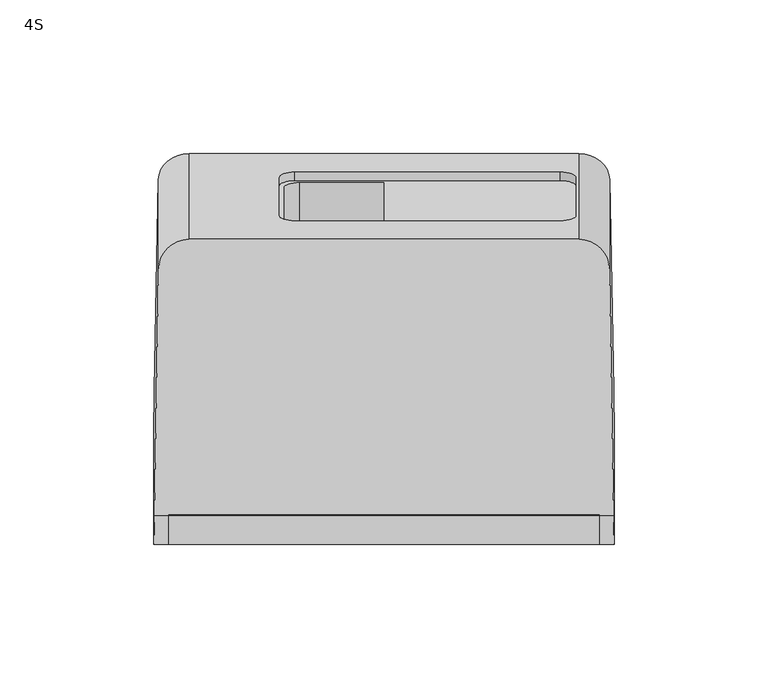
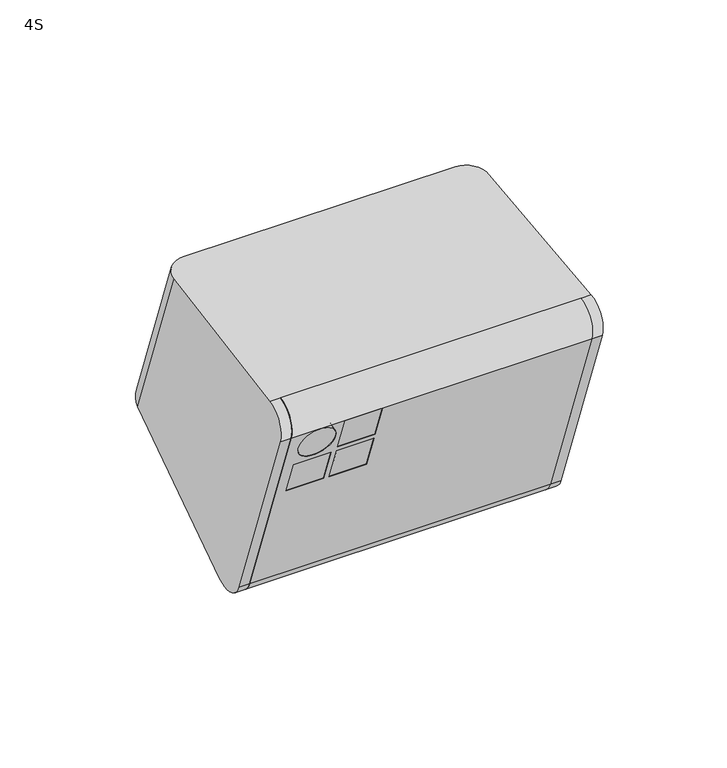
"""IFC4 building model written with IfcOpenShell, lengths in millimetres: proxy geometry, d&b xS-Series 4S Point Source : 4S."""

from ifc_helpers import new_model, si_unit, point, frame, frame_2d, origin, place, context, project, spatial, polyline, circle_curve, ellipse_curve, trimmed, segment, composite_curve, outline, extrude, source, transform, mapped, element, save
from ifc_brep_helpers import plane_surface, cylinder_surface, revolved_surface, advanced_brep


def proxy_4s_93626263(model_context):
    return source(origin(), model_context, "Body", "SolidModel", [
        extrude(outline(composite_curve([segment(polyline([(-54.0660979, 38.2800313), (-16.811104, -64.0772231)]), True, "CONTINUOUS"), segment(trimmed(circle_curve(frame_2d((-20.8574026, -59.6469333)), 6.0), [point((-16.811104, -64.0772231))], [point((-26.4955583, -61.6990542))], False, "CARTESIAN"), True, "CONTINUOUS"), segment(polyline([(-26.4955583, -61.6990542), (-59.9561628, 30.233201)]), True, "CONTINUOUS"), segment(trimmed(circle_curve(frame_2d((-54.3180071, 32.2853219)), 6.0), [point((-59.9561628, 30.233201))], [point((-54.0660979, 38.2800313))], False, "CARTESIAN"), True, "CONTINUOUS")], self_intersect=False)), frame((-70.0, 0.0, 0.0), z_axis=(1.0, 0.0, 0.0), x_axis=(0.0, 1.0, 0.0)), (0.0, 0.0, 1.0), 140.0),
        advanced_brep(
        [(-27.5, -58.5875693, 11.8539993), (-27.5, -53.8891062, 13.5641), (-45.0, -53.8891062, 13.5641), (-45.0, -58.5875693, 11.8539993), (-45.0, -59.8744587, 30.0087209), (-45.0, -64.5729218, 28.2986202), (-27.5, -59.8744587, 30.0087209), (-27.5, -64.5729218, 28.2986202), (-27.5, -51.7471664, -6.9398531), (-27.5, -47.0487033, -5.2297524), (-45.0, -47.0487033, -5.2297524), (-45.0, -51.7471664, -6.9398531), (-45.0, -53.0340558, 11.2148685), (-45.0, -57.7325189, 9.5047677), (-27.5, -53.0340558, 11.2148685), (-27.5, -57.7325189, 9.5047677), (-47.5, -51.7471664, -6.9398531), (-47.5, -47.0487033, -5.2297524), (-65.0, -47.0487033, -5.2297524), (-65.0, -51.7471664, -6.9398531), (-65.0, -53.0340558, 11.2148685), (-65.0, -57.7325189, 9.5047677), (-47.5, -53.0340558, 11.2148685), (-47.5, -57.7325189, 9.5047677), (-65.0, -61.5802456, 20.0763097), (-65.0, -56.8817824, 21.7864104), (-47.5, -56.8817824, 21.7864104), (-47.5, -61.5802456, 20.0763097), (70.0, -31.1940214, -63.4091549), (70.0, -15.0282907, -68.9754624), (70.0, -16.811104, -64.0772231), (70.0, -26.4955583, -61.6990542), (70.0, -59.9561628, 30.233201), (70.0, -54.0660979, 38.2800313), (70.0, -55.8489112, 43.1782706), (70.0, -64.6546259, 28.5231003), (-70.0, -31.1940214, -63.4091549), (-70.0, -64.6546259, 28.5231003), (-70.0, -55.8489112, 43.1782706), (-70.0, -54.0660979, 38.2800313), (-70.0, -59.9561628, 30.233201), (-70.0, -26.4955583, -61.6990542), (-70.0, -16.811104, -64.0772231), (-70.0, -15.0282907, -68.9754624)],
        [
            (0, 1),
            (1, 2),
            (2, 3),
            (3, 0),
            (2, 4),
            (4, 5),
            (5, 3),
            (4, 6),
            (6, 7),
            (7, 5),
            (0, 7),
            (6, 1),
            (8, 9),
            (9, 10),
            (10, 11),
            (11, 8),
            (10, 12),
            (12, 13),
            (13, 11),
            (12, 14),
            (14, 15),
            (15, 13),
            (8, 15),
            (14, 9),
            (16, 17),
            (17, 18),
            (18, 19),
            (19, 16),
            (18, 20),
            (20, 21),
            (21, 19),
            (20, 22),
            (22, 23),
            (23, 21),
            (16, 23),
            (22, 17),
            (24, 25),
            (25, 26, circle_curve(frame((-56.25, -56.8817824, 21.7864104), z_axis=(0.0, 0.9396926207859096, 0.3420201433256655), x_axis=(1.0, 0.0, 0.0)), 8.75)),
            (26, 27),
            (27, 24, circle_curve(frame((-56.25, -61.5802456, 20.0763097), z_axis=(0.0, -0.9396926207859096, -0.3420201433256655), x_axis=(1.0, 0.0, 0.0)), 8.75)),
            (24, 27, circle_curve(frame((-56.25, -61.5802456, 20.0763097), z_axis=(0.0, -0.9396926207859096, -0.3420201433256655), x_axis=(1.0, 0.0, 0.0)), 8.75)),
            (26, 25, circle_curve(frame((-56.25, -56.8817824, 21.7864104), z_axis=(0.0, 0.9396926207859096, 0.3420201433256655), x_axis=(1.0, 0.0, 0.0)), 8.75)),
            (28, 29, circle_curve(frame((70.0, -20.8574026, -59.6469333), z_axis=(1.0, 0.0, 0.0), x_axis=(0.0, -0.9396926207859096, -0.3420201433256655)), 11.0)),
            (29, 30),
            (30, 31, circle_curve(frame((70.0, -20.8574026, -59.6469333), z_axis=(-1.0, 0.0, 0.0), x_axis=(0.0, -0.9396926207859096, -0.3420201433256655)), 6.0)),
            (31, 32),
            (32, 33, circle_curve(frame((70.0, -54.3180071, 32.2853219), z_axis=(-1.0, 0.0, 0.0), x_axis=(0.0, -0.9396926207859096, -0.3420201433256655)), 6.0)),
            (33, 34),
            (34, 35, circle_curve(frame((70.0, -54.3180071, 32.2853219), z_axis=(1.0, 0.0, 0.0), x_axis=(0.0, -0.9396926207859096, -0.3420201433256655)), 11.0)),
            (35, 28),
            (36, 37),
            (37, 38, circle_curve(frame((-70.0, -54.3180071, 32.2853219), z_axis=(-1.0, 0.0, 0.0), x_axis=(0.0, -0.9396926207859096, -0.3420201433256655)), 11.0)),
            (38, 39),
            (39, 40, circle_curve(frame((-70.0, -54.3180071, 32.2853219), z_axis=(1.0, 0.0, 0.0), x_axis=(0.0, -0.9396926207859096, -0.3420201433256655)), 6.0)),
            (40, 41),
            (41, 42, circle_curve(frame((-70.0, -20.8574026, -59.6469333), z_axis=(1.0, 0.0, 0.0), x_axis=(0.0, -0.9396926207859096, -0.3420201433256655)), 6.0)),
            (42, 43),
            (43, 36, circle_curve(frame((-70.0, -20.8574026, -59.6469333), z_axis=(-1.0, 0.0, 0.0), x_axis=(0.0, -0.9396926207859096, -0.3420201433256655)), 11.0)),
            (28, 36),
            (43, 29),
            (42, 30),
            (41, 31),
            (40, 32),
            (39, 33),
            (38, 34),
            (37, 35),
        ],
        [
            plane_surface(frame((-45.0, -58.5875693, 11.8539993), z_axis=(0.0, -0.3420201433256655, 0.9396926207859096), x_axis=(0.0, 0.9396926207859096, 0.3420201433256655))),
            plane_surface(frame((-45.0, -64.5729218, 28.2986202), z_axis=(1.0000000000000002, 0.0, 0.0), x_axis=(0.0, 0.9396926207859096, 0.3420201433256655))),
            plane_surface(frame((-27.5, -64.5729218, 28.2986202), z_axis=(0.0, 0.3420201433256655, -0.9396926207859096), x_axis=(0.0, 0.9396926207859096, 0.3420201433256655))),
            plane_surface(frame((-27.5, -58.5875693, 11.8539993), z_axis=(-1.0000000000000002, 0.0, 0.0), x_axis=(0.0, 0.9396926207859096, 0.3420201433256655))),
            plane_surface(frame((-45.0, -51.7471664, -6.9398531), z_axis=(0.0, -0.3420201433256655, 0.9396926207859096), x_axis=(0.0, 0.9396926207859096, 0.3420201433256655))),
            plane_surface(frame((-45.0, -57.7325189, 9.5047677), z_axis=(1.0000000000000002, 0.0, 0.0), x_axis=(0.0, 0.9396926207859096, 0.3420201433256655))),
            plane_surface(frame((-27.5, -57.7325189, 9.5047677), z_axis=(0.0, 0.3420201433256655, -0.9396926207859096), x_axis=(0.0, 0.9396926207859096, 0.3420201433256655))),
            plane_surface(frame((-27.5, -51.7471664, -6.9398531), z_axis=(-1.0000000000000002, 0.0, 0.0), x_axis=(0.0, 0.9396926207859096, 0.3420201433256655))),
            plane_surface(frame((-65.0, -51.7471664, -6.9398531), z_axis=(0.0, -0.3420201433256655, 0.9396926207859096), x_axis=(0.0, 0.9396926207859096, 0.3420201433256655))),
            plane_surface(frame((-65.0, -57.7325189, 9.5047677), z_axis=(1.0000000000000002, 0.0, 0.0), x_axis=(0.0, 0.9396926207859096, 0.3420201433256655))),
            plane_surface(frame((-47.5, -57.7325189, 9.5047677), z_axis=(0.0, 0.3420201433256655, -0.9396926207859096), x_axis=(0.0, 0.9396926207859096, 0.3420201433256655))),
            plane_surface(frame((-47.5, -51.7471664, -6.9398531), z_axis=(-1.0000000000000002, 0.0, 0.0), x_axis=(0.0, 0.9396926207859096, 0.3420201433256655))),
            revolved_surface(polyline([(-47.5, -61.58024561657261, 20.076309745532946), (-47.5, -56.88178243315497, 21.78641049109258)]), (-56.25, -147.3250437, -11.1322445), (0.0, -0.9396926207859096, -0.3420201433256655)),
            plane_surface(frame((70.0, -31.1940214, -63.4091549), z_axis=(1.0000000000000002, 0.0, 0.0), x_axis=(0.0, 0.3420201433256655, -0.9396926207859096))),
            plane_surface(frame((-70.0, -31.1940214, -63.4091549), z_axis=(-1.0000000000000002, 0.0, 0.0), x_axis=(0.0, -0.3420201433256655, 0.9396926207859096))),
            cylinder_surface(frame((-70.0, -20.8574026, -59.6469333), z_axis=(1.0, 0.0, 0.0), x_axis=(0.0, -0.9396926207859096, -0.3420201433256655)), 11.0),
            plane_surface(frame((70.0, -15.0282907, -68.9754624), z_axis=(0.0, 0.939692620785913, 0.34202014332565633), x_axis=(-1.0, 0.0, 0.0))),
            revolved_surface(polyline([(-70.0, -26.495558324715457, -61.699054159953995), (70.0, -26.495558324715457, -61.699054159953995)]), (-70.0, -20.8574026, -59.6469333), (-1.0, 0.0, 0.0)),
            plane_surface(frame((70.0, -26.4955583, -61.6990542), z_axis=(0.0, 0.9396926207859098, 0.3420201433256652), x_axis=(-1.0, 0.0, 0.0))),
            revolved_surface(polyline([(-70.0, -59.95616282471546, 30.233201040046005), (70.0, -59.95616282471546, 30.233201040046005)]), (-70.0, -54.3180071, 32.2853219), (-1.0, 0.0, 0.0)),
            plane_surface(frame((70.0, -54.0660979, 38.2800313), z_axis=(0.0, 0.9396926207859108, 0.34202014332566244), x_axis=(-1.0, 0.0, 0.0))),
            cylinder_surface(frame((-70.0, -54.3180071, 32.2853219), z_axis=(1.0, 0.0, 0.0), x_axis=(0.0, -0.9396926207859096, -0.3420201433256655)), 11.0),
            plane_surface(frame((70.0, -64.6546259, 28.5231003), z_axis=(0.0, -0.9396926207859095, -0.34202014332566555), x_axis=(-1.0, 0.0, 0.0))),
        ],
        [
            (0, [[1, 2, 3, 4]]),
            (1, [[-3, 5, 6, 7]]),
            (2, [[-6, 8, 9, 10]]),
            (3, [[-1, 11, -9, 12]]),
            (4, [[13, 14, 15, 16]]),
            (5, [[-15, 17, 18, 19]]),
            (6, [[-18, 20, 21, 22]]),
            (7, [[-13, 23, -21, 24]]),
            (8, [[25, 26, 27, 28]]),
            (9, [[-27, 29, 30, 31]]),
            (10, [[-30, 32, 33, 34]]),
            (11, [[-25, 35, -33, 36]]),
            (12, [[37, 38, 39, 40]]),
            (12, [[-37, 41, -39, 42]]),
            (13, [[43, 44, 45, 46, 47, 48, 49, 50]]),
            (14, [[51, 52, 53, 54, 55, 56, 57, 58]]),
            (15, [[-43, 59, -58, 60]]),
            (16, [[-44, -60, -57, 61]]),
            (17, [[-45, -61, -56, 62]]),
            (18, [[-46, -62, -55, 63], [-2, -12, -8, -5], [-14, -24, -20, -17], [-26, -36, -32, -29], [-38, -42]]),
            (19, [[-47, -63, -54, 64]]),
            (20, [[-48, -64, -53, 65]]),
            (21, [[-49, -65, -52, 66]]),
            (22, [[-50, -66, -51, -59], [-4, -7, -10, -11], [-16, -19, -22, -23], [-28, -31, -34, -35], [-40, -41]]),
        ],
    ),
        extrude(outline(polyline([(0.0, -17.5), (0.0, 0.0), (5.0, 0.0), (5.0, -17.5), (0.0, -17.5)])), frame((-45.0, -58.5824428, 11.8399145), z_axis=(0.0, -0.3420201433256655, 0.9396926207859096), x_axis=(0.0, 0.9396926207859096, 0.3420201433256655)), (0.0, 0.0, 1.0), 17.5),
        extrude(outline(polyline([(0.0, -17.5), (0.0, 0.0), (5.0, 0.0), (5.0, -17.5), (0.0, -17.5)])), frame((-45.0, -51.74204, -6.9539379), z_axis=(0.0, -0.3420201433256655, 0.9396926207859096), x_axis=(0.0, 0.9396926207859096, 0.3420201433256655)), (0.0, 0.0, 1.0), 17.5),
        extrude(outline(polyline([(0.0, -17.5), (0.0, 0.0), (5.0, 0.0), (5.0, -17.5), (0.0, -17.5)])), frame((-65.0, -51.74204, -6.9539379), z_axis=(0.0, -0.3420201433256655, 0.9396926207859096), x_axis=(0.0, 0.9396926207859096, 0.3420201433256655)), (0.0, 0.0, 1.0), 17.5),
        extrude(outline(composite_curve([segment(trimmed(circle_curve(frame_2d((-8.7500001, -28.75)), 8.75), [point((-8.7500001, -37.5))], [point((-8.7500001, -20.0))], False, "CARTESIAN"), True, "CONTINUOUS"), segment(trimmed(circle_curve(frame_2d((-8.7500001, -28.75)), 8.75), [point((-8.7500001, -20.0))], [point((-8.7500001, -37.5))], False, "CARTESIAN"), True, "CONTINUOUS")], self_intersect=False)), frame((-27.5, -64.5677954, 28.2845354), z_axis=(0.0, 0.9396926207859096, 0.3420201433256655), x_axis=(0.0, -0.3420201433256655, 0.9396926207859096)), (0.0, 0.0, 1.0), 5.0),
        advanced_brep(
        [(57.4298657, 37.2178876, 38.0873055), (62.4298657, 38.9279883, 33.3888424), (62.4298657, 51.2825033, -0.5549087), (57.4298657, 52.992604, -5.2533718), (-29.0610927, 52.992604, -5.2533718), (-34.0610927, 51.2825033, -0.5549087), (-34.0610927, 38.9279883, 33.3888424), (-29.0610927, 37.2178876, 38.0873055), (-32.4913486, 39.4648724, 31.9137655), (-32.4913486, 50.7456192, 0.9201683), (-27.4913486, 52.4557199, -3.7782948), (-0.0804502, 52.4557199, -3.7782948), (-0.0804502, 37.7547717, 36.6122286), (-27.4913486, 37.7547717, 36.6122286), (57.4298657, 40.0369654, 39.113366), (62.4298657, 41.7470661, 34.4149029), (62.4298657, 54.1015812, 0.4711518), (57.4298657, 55.8116819, -4.2273114), (-29.0610927, 55.8116819, -4.2273114), (-34.0610927, 54.1015812, 0.4711518), (-34.0610927, 41.7470661, 34.4149029), (-29.0610927, 40.0369654, 39.113366), (-32.4913486, 35.7105373, -4.552154), (-32.4913486, 24.4297904, 26.4414432), (-27.4913486, 22.7196897, 31.1399063), (-0.0804502, 22.7196897, 31.1399063), (-0.0804502, 37.420638, -9.2506171), (-27.4913486, 37.420638, -9.2506171), (70.0, -31.1940214, -63.4091549), (70.0, -64.6546259, 28.5231003), (70.0, -55.8489112, 43.1782706), (70.0, -15.0282907, -68.9754624), (-70.0, -31.1940214, -63.4091549), (-70.0, -15.0282907, -68.9754624), (-70.0, -55.8489112, 43.1782706), (-70.0, -64.6546259, 28.5231003), (-74.7177462, -15.0282907, -68.9754624), (-73.3763698, 53.3627907, -26.2399717), (-63.3778153, 61.8853228, -20.9145026), (63.3841074, 61.8853228, -20.9145026), (73.3826619, 53.3627907, -26.2399717), (74.7240383, -15.0282907, -68.9754624), (-73.3763698, 24.0115406, 54.4019252), (-74.7177462, -55.8489112, 43.1782706), (74.7240383, -55.8489112, 43.1782706), (73.3826619, 24.0115406, 54.4019252), (63.3841074, 33.9633245, 55.8005572), (-63.3778153, 33.9633245, 55.8005572), (74.9499793, -31.1940214, -63.4091549), (74.9499793, -64.6546259, 28.5231003), (-74.9436872, -31.1940214, -63.4091549), (-74.9436872, -64.6546259, 28.5231003)],
        [
            (0, 1, circle_curve(frame((57.4298657, 38.9279883, 33.3888424), z_axis=(0.0, 0.9396926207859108, 0.34202014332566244), x_axis=(0.0, -0.34202014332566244, 0.9396926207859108)), 5.0)),
            (1, 2),
            (2, 3, circle_curve(frame((57.4298657, 51.2825033, -0.5549087), z_axis=(0.0, 0.9396926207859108, 0.34202014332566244), x_axis=(0.0, -0.34202014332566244, 0.9396926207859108)), 5.0)),
            (3, 4),
            (4, 5, circle_curve(frame((-29.0610927, 51.2825033, -0.5549087), z_axis=(0.0, 0.9396926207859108, 0.34202014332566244), x_axis=(0.0, -0.34202014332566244, 0.9396926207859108)), 5.0)),
            (5, 6),
            (6, 7, circle_curve(frame((-29.0610927, 38.9279883, 33.3888424), z_axis=(0.0, 0.9396926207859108, 0.34202014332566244), x_axis=(0.0, -0.34202014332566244, 0.9396926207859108)), 5.0)),
            (7, 0),
            (8, 9),
            (9, 10, circle_curve(frame((-27.4913486, 50.7456192, 0.9201683), z_axis=(0.0, -0.9396926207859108, -0.34202014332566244), x_axis=(0.0, -0.34202014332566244, 0.9396926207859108)), 5.0)),
            (10, 11),
            (11, 12),
            (12, 13),
            (13, 8, circle_curve(frame((-27.4913486, 39.4648724, 31.9137655), z_axis=(0.0, -0.9396926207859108, -0.34202014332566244), x_axis=(0.0, -0.34202014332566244, 0.9396926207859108)), 5.0)),
            (0, 14),
            (14, 15, circle_curve(frame((57.4298657, 41.7470661, 34.4149029), z_axis=(0.0, 0.9396926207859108, 0.34202014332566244), x_axis=(0.0, -0.34202014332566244, 0.9396926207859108)), 5.0)),
            (15, 1),
            (15, 16),
            (16, 2),
            (16, 17, circle_curve(frame((57.4298657, 54.1015812, 0.4711518), z_axis=(0.0, 0.9396926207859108, 0.34202014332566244), x_axis=(0.0, -0.34202014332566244, 0.9396926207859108)), 5.0)),
            (17, 3),
            (17, 18),
            (18, 4),
            (18, 19, circle_curve(frame((-29.0610927, 54.1015812, 0.4711518), z_axis=(0.0, 0.9396926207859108, 0.34202014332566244), x_axis=(0.0, -0.34202014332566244, 0.9396926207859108)), 5.0)),
            (19, 5),
            (19, 20),
            (20, 6),
            (20, 21, circle_curve(frame((-29.0610927, 41.7470661, 34.4149029), z_axis=(0.0, 0.9396926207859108, 0.34202014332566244), x_axis=(0.0, -0.34202014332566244, 0.9396926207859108)), 5.0)),
            (21, 7),
            (21, 14),
            (22, 23),
            (23, 24, circle_curve(frame((-27.4913486, 24.4297904, 26.4414432), z_axis=(0.0, 0.9396926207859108, 0.34202014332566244), x_axis=(0.0, -0.34202014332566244, 0.9396926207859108)), 5.0)),
            (24, 25),
            (25, 26),
            (26, 27),
            (27, 22, circle_curve(frame((-27.4913486, 35.7105373, -4.552154), z_axis=(0.0, 0.9396926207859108, 0.34202014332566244), x_axis=(0.0, -0.34202014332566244, 0.9396926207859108)), 5.0)),
            (28, 29),
            (29, 30, circle_curve(frame((70.0, -54.3180071, 32.2853219), z_axis=(-1.0, 0.0, 0.0), x_axis=(0.0, -0.9396926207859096, -0.3420201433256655)), 11.0)),
            (30, 31),
            (31, 28, circle_curve(frame((70.0, -20.8574026, -59.6469333), z_axis=(-1.0, 0.0, 0.0), x_axis=(0.0, -0.9396926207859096, -0.3420201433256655)), 11.0)),
            (32, 33, circle_curve(frame((-70.0, -20.8574026, -59.6469333), z_axis=(1.0, 0.0, 0.0), x_axis=(0.0, -0.9396926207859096, -0.3420201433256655)), 11.0)),
            (33, 34),
            (34, 35, circle_curve(frame((-70.0, -54.3180071, 32.2853219), z_axis=(1.0, 0.0, 0.0), x_axis=(0.0, -0.9396926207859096, -0.3420201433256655)), 11.0)),
            (35, 32),
            (22, 9),
            (8, 23),
            (13, 24),
            (12, 25),
            (11, 26),
            (10, 27),
            (36, 37),
            (37, 38, ellipse_curve(frame((-63.3778153, 53.2153828, -26.3320823), z_axis=(0.0, 0.5299192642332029, -0.8480480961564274), x_axis=(0.0, 0.8480480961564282, 0.5299192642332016)), 10.2234059, 10.0)),
            (38, 39),
            (39, 40, ellipse_curve(frame((63.3841074, 53.2153828, -26.3320823), z_axis=(0.0, 0.5299192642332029, -0.8480480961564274), x_axis=(0.0, 0.8480480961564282, 0.5299192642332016)), 10.2234059, 10.0)),
            (40, 41),
            (41, 31),
            (31, 33),
            (33, 36),
            (30, 34),
            (42, 43),
            (43, 34),
            (30, 44),
            (44, 45),
            (45, 46, ellipse_curve(frame((63.3841074, 23.8394121, 54.3777341), z_axis=(0.0, -0.13917310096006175, 0.9902680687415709), x_axis=(0.0, -0.9902680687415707, -0.13917310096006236)), 10.2234059, 10.0)),
            (46, 47),
            (47, 42, ellipse_curve(frame((-63.3778153, 23.8394121, 54.3777341), z_axis=(0.0, -0.13917310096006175, 0.9902680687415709), x_axis=(0.0, -0.9902680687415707, -0.13917310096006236)), 10.2234059, 10.0)),
            (38, 47),
            (46, 39),
            (41, 48, ellipse_curve(frame((74.7629284, -20.8574026, -59.6469333), z_axis=(-0.9998554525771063, -0.01597681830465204, -0.005815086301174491), x_axis=(0.01700217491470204, -0.9395567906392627, -0.34197070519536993)), 11.0015903, 11.0)),
            (48, 28),
            (29, 49),
            (49, 44, ellipse_curve(frame((74.7629284, -54.3180071, 32.2853219), z_axis=(-0.9998554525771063, -0.01597681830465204, -0.005815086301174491), x_axis=(0.01700217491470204, -0.9395567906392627, -0.34197070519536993)), 11.0015903, 11.0)),
            (48, 49),
            (32, 50),
            (50, 36, ellipse_curve(frame((-74.7566362, -20.8574026, -59.6469333), z_axis=(0.9998554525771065, -0.01597681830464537, -0.005815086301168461), x_axis=(0.01700217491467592, 0.939556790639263, 0.3419707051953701)), 11.0015903, 11.0)),
            (43, 51, ellipse_curve(frame((-74.7566362, -54.3180071, 32.2853219), z_axis=(0.9998554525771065, -0.01597681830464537, -0.005815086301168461), x_axis=(0.01700217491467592, 0.939556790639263, 0.3419707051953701)), 11.0015903, 11.0)),
            (51, 35),
            (51, 50),
            (40, 45),
            (42, 37),
        ],
        [
            plane_surface(frame((57.4298657, 37.2178876, 38.0873055), z_axis=(0.0, 0.9396926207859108, 0.34202014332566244), x_axis=(-1.0, 0.0, 0.0))),
            revolved_surface(polyline([(57.4298657, 40.03696542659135, 39.11336592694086), (57.4298657, 37.21788758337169, 38.08730550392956)]), (57.4298657, 38.9279883, 33.3888424), (0.0, 0.9396926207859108, 0.34202014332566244)),
            plane_surface(frame((62.4298657, 41.7470661, 34.4149029), z_axis=(-1.0000000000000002, 0.0, 0.0), x_axis=(0.0, -0.9396926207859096, -0.3420201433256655))),
            revolved_surface(polyline([(57.4298657, 52.39148050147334, 5.169614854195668), (57.4298657, 49.57240256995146, 4.143554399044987)]), (57.4298657, 51.2825033, -0.5549087), (0.0, 0.9396926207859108, 0.34202014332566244)),
            plane_surface(frame((57.4298657, 55.8116819, -4.2273114), z_axis=(0.0, -0.3420201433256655, 0.9396926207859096), x_axis=(0.0, -0.9396926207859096, -0.3420201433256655))),
            revolved_surface(polyline([(-29.0610927, 52.39148050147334, 5.169614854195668), (-29.0610927, 49.57240256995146, 4.143554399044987)]), (-29.0610927, 51.2825033, -0.5549087), (0.0, 0.9396926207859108, 0.34202014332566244)),
            plane_surface(frame((-34.0610927, 54.1015812, 0.4711518), z_axis=(1.0000000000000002, 0.0, 0.0), x_axis=(0.0, -0.9396926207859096, -0.3420201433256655))),
            revolved_surface(polyline([(-29.0610927, 40.03696542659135, 39.11336592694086), (-29.0610927, 37.21788758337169, 38.08730550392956)]), (-29.0610927, 38.9279883, 33.3888424), (0.0, 0.9396926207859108, 0.34202014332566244)),
            plane_surface(frame((-29.0610927, 40.0369654, 39.113366), z_axis=(0.0, 0.3420201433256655, -0.9396926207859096), x_axis=(0.0, -0.9396926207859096, -0.3420201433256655))),
            plane_surface(frame((-32.4913486, 26.6499624, 20.3415708), z_axis=(0.0, 0.9396926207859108, 0.34202014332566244), x_axis=(0.0, 0.34202014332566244, -0.9396926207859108))),
            plane_surface(frame((70.0, -31.1940214, -63.4091549), z_axis=(-1.0000000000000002, 0.0, 0.0), x_axis=(0.0, -0.3420201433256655, 0.9396926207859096))),
            plane_surface(frame((-70.0, -31.1940214, -63.4091549), z_axis=(1.0000000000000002, 0.0, 0.0), x_axis=(0.0, 0.3420201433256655, -0.9396926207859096))),
            plane_surface(frame((-32.4913486, 53.5646971, 1.9462287), z_axis=(1.0000000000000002, 0.0, 0.0), x_axis=(0.0, -0.9396926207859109, -0.3420201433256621))),
            revolved_surface(polyline([(-27.4913486, 37.754771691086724, 36.61222862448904), (-27.4913486, 22.71968968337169, 31.139906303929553)]), (-27.4913486, 24.4297904, 26.4414432), (0.0, 0.9396926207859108, 0.34202014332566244)),
            plane_surface(frame((-27.4913486, 40.5738495, 37.638289), z_axis=(0.0, 0.3420201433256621, -0.9396926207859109), x_axis=(0.0, -0.9396926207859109, -0.3420201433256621))),
            plane_surface(frame((-0.0804502, 40.5738495, 37.638289), z_axis=(-1.0000000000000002, 0.0, 0.0), x_axis=(0.0, -0.9396926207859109, -0.3420201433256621))),
            plane_surface(frame((-0.0804502, 55.2747978, -2.7522344), z_axis=(0.0, -0.3420201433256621, 0.9396926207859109), x_axis=(0.0, -0.9396926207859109, -0.3420201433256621))),
            revolved_surface(polyline([(-27.4913486, 49.035518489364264, 5.618631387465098), (-27.4913486, 34.000436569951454, 0.14630909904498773)]), (-27.4913486, 35.7105373, -4.552154), (0.0, 0.9396926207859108, 0.34202014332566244)),
            plane_surface(frame((-74.9436872, 61.8853228, -20.9145026), z_axis=(0.0, 0.5299192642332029, -0.8480480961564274), x_axis=(1.0, 0.0, 0.0))),
            plane_surface(frame((-74.9436872, -15.0282907, -68.9754624), z_axis=(0.0, -0.9396926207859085, -0.3420201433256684), x_axis=(1.0, 0.0, 0.0))),
            plane_surface(frame((-74.9436872, -55.8489112, 43.1782706), z_axis=(0.0, -0.13917310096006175, 0.9902680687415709), x_axis=(1.0, 0.0, 0.0))),
            plane_surface(frame((-74.9436872, 33.9633245, 55.8005572), z_axis=(0.0, 0.9396926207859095, 0.34202014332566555), x_axis=(1.0, 0.0, 0.0))),
            cylinder_surface(frame((70.0, -20.8574026, -59.6469333), z_axis=(1.0, 0.0, 0.0), x_axis=(0.0, -0.9396926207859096, -0.3420201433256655)), 11.0),
            cylinder_surface(frame((70.0, -54.3180071, 32.2853219), z_axis=(1.0, 0.0, 0.0), x_axis=(0.0, -0.9396926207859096, -0.3420201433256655)), 11.0),
            plane_surface(frame((74.9499793, -64.6546259, 28.5231003), z_axis=(0.0, -0.9396926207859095, -0.34202014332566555), x_axis=(-1.0, 0.0, 0.0))),
            cylinder_surface(frame((-74.9436872, -20.8574026, -59.6469333), z_axis=(1.0, 0.0, 0.0), x_axis=(0.0, -0.9396926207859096, -0.3420201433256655)), 11.0),
            cylinder_surface(frame((-74.9436872, -54.3180071, 32.2853219), z_axis=(1.0, 0.0, 0.0), x_axis=(0.0, -0.9396926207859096, -0.3420201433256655)), 11.0),
            plane_surface(frame((-70.0, -64.6546259, 28.5231003), z_axis=(0.0, -0.9396926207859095, -0.34202014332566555), x_axis=(-1.0, 0.0, 0.0))),
            plane_surface(frame((75.055594, -31.5293859, -80.6473132), z_axis=(0.9998554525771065, 0.015976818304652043, 0.005815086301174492), x_axis=(0.0, -0.3420201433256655, 0.9396926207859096))),
            cylinder_surface(frame((63.3841074, 16.2960881, 75.1028462), z_axis=(0.0, -0.3420201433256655, 0.9396926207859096), x_axis=(0.0, 0.9396926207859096, 0.3420201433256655)), 10.0),
            plane_surface(frame((-73.3763698, 60.918475, -46.9990436), z_axis=(-0.9998554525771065, 0.01597681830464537, 0.005815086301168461), x_axis=(0.0, -0.3420201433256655, 0.9396926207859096))),
            cylinder_surface(frame((-63.3778153, 16.2960881, 75.1028462), z_axis=(0.0, -0.3420201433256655, 0.9396926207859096), x_axis=(0.0, 0.9396926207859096, 0.3420201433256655)), 10.0),
        ],
        [
            (0, [[1, 2, 3, 4, 5, 6, 7, 8], [9, 10, 11, 12, 13, 14]]),
            (1, [[-1, 15, 16, 17]]),
            (2, [[-2, -17, 18, 19]]),
            (3, [[-3, -19, 20, 21]]),
            (4, [[-4, -21, 22, 23]]),
            (5, [[-5, -23, 24, 25]]),
            (6, [[-6, -25, 26, 27]]),
            (7, [[-7, -27, 28, 29]]),
            (8, [[-8, -29, 30, -15]]),
            (9, [[31, 32, 33, 34, 35, 36]]),
            (10, [[37, 38, 39, 40]]),
            (11, [[41, 42, 43, 44]]),
            (12, [[-31, 45, -9, 46]]),
            (13, [[-32, -46, -14, 47]]),
            (14, [[-33, -47, -13, 48]]),
            (15, [[-34, -48, -12, 49]]),
            (16, [[-35, -49, -11, 50]]),
            (17, [[-36, -50, -10, -45]]),
            (18, [[51, 52, 53, 54, 55, 56, 57, 58]]),
            (19, [[-39, 59, -42, -57]]),
            (20, [[60, 61, -59, 62, 63, 64, 65, 66]]),
            (21, [[67, -65, 68, -53], [-16, -30, -28, -26, -24, -22, -20, -18]]),
            (22, [[-40, -56, 69, 70]]),
            (23, [[-38, 71, 72, -62]]),
            (24, [[-37, -70, 73, -71]]),
            (25, [[-41, 74, 75, -58]]),
            (26, [[-43, -61, 76, 77]]),
            (27, [[-44, -77, 78, -74]]),
            (28, [[79, -63, -72, -73, -69, -55]]),
            (29, [[-79, -54, -68, -64]]),
            (30, [[80, -51, -75, -78, -76, -60]]),
            (31, [[-80, -66, -67, -52]]),
        ],
    ),
    ])


if __name__ == "__main__":
    model = new_model("IFC4")
    model_context = context("Model", 3, world=origin())
    ifc_project = project(units=[si_unit("LENGTHUNIT", "METRE", prefix="MILLI")], contexts=[model_context])
    site = spatial("IfcSite", under=ifc_project)
    building = spatial("IfcBuilding", under=site)
    placement = place(None, origin())
    proxy_4s_shape = proxy_4s_93626263(model_context)
    element("IfcBuildingElementProxy", 1, Name="d&b xS-Series 4S Point Source : 4S", ObjectType="d&b xS-Series 4S Point Source : 4S", at=placement, inside=building, context=model_context, shape_type="MappedRepresentation", body=[
        mapped(proxy_4s_shape, transform((0.0, 0.0, 0.0), x_axis=(1.0, 0.0, 0.0), y_axis=(0.0, 1.0, 0.0), z_axis=(0.0, 0.0, 1.0))),
    ])
    save(model, "model.ifc")
